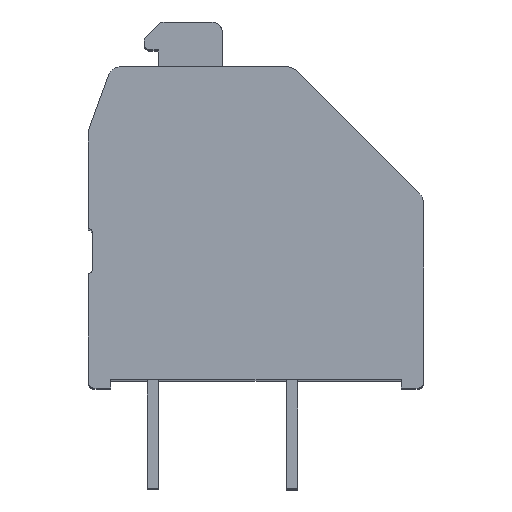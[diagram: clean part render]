
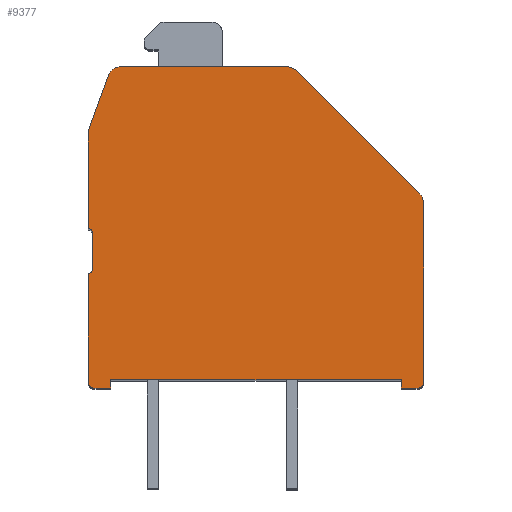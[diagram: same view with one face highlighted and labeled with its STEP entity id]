
A CAD part, top view. The second image highlights one B-rep face of the part: STEP entity #9377.
In plain terms, the highlighted planar face has unit normal (0, 0, 1).
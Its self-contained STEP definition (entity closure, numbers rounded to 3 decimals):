
#53=CIRCLE('',#9687,0.5);
#122=CIRCLE('',#9928,0.15);
#124=CIRCLE('',#9932,0.15);
#126=CIRCLE('',#9937,0.5);
#128=CIRCLE('',#9940,0.5);
#175=CIRCLE('',#10100,0.2);
#176=CIRCLE('',#10106,0.2);
#388=PLANE('',#10107);
#629=LINE('',#13120,#1750);
#955=LINE('',#13960,#2076);
#1124=LINE('',#14374,#2245);
#1129=LINE('',#14385,#2250);
#1134=LINE('',#14399,#2255);
#1141=LINE('',#14416,#2262);
#1206=LINE('',#14526,#2327);
#1211=LINE('',#14542,#2332);
#1350=LINE('',#14935,#2471);
#1351=LINE('',#14937,#2472);
#1353=LINE('',#14941,#2474);
#1355=LINE('',#14945,#2476);
#1750=VECTOR('',#10446,1000.);
#2076=VECTOR('',#11174,1000.);
#2245=VECTOR('',#11517,1000.);
#2250=VECTOR('',#11524,1000.);
#2255=VECTOR('',#11537,1000.);
#2262=VECTOR('',#11552,1000.);
#2327=VECTOR('',#11619,1000.);
#2332=VECTOR('',#11638,1000.);
#2471=VECTOR('',#12097,1000.);
#2472=VECTOR('',#12100,1000.);
#2474=VECTOR('',#12104,1000.);
#2476=VECTOR('',#12108,1000.);
#4431=ORIENTED_EDGE('',*,*,#6281,.T.);
#4432=ORIENTED_EDGE('',*,*,#6285,.F.);
#4433=ORIENTED_EDGE('',*,*,#6288,.T.);
#4434=ORIENTED_EDGE('',*,*,#6291,.F.);
#4435=ORIENTED_EDGE('',*,*,#6297,.T.);
#4436=ORIENTED_EDGE('',*,*,#6555,.T.);
#4437=ORIENTED_EDGE('',*,*,#6557,.T.);
#4438=ORIENTED_EDGE('',*,*,#6558,.T.);
#4439=ORIENTED_EDGE('',*,*,#6276,.T.);
#4440=ORIENTED_EDGE('',*,*,#6560,.T.);
#4441=ORIENTED_EDGE('',*,*,#6562,.T.);
#4442=ORIENTED_EDGE('',*,*,#6563,.T.);
#4443=ORIENTED_EDGE('',*,*,#6362,.T.);
#4444=ORIENTED_EDGE('',*,*,#6366,.T.);
#4445=ORIENTED_EDGE('',*,*,#5638,.T.);
#4446=ORIENTED_EDGE('',*,*,#5695,.T.);
#4447=ORIENTED_EDGE('',*,*,#6065,.T.);
#4448=ORIENTED_EDGE('',*,*,#6369,.T.);
#4449=ORIENTED_EDGE('',*,*,#6371,.T.);
#5638=EDGE_CURVE('',#7016,#7015,#629,.T.);
#5695=EDGE_CURVE('',#7015,#7061,#53,.T.);
#6065=EDGE_CURVE('',#7061,#7328,#955,.T.);
#6276=EDGE_CURVE('',#7487,#7486,#1124,.T.);
#6281=EDGE_CURVE('',#7492,#7491,#1129,.T.);
#6285=EDGE_CURVE('',#7494,#7491,#122,.T.);
#6288=EDGE_CURVE('',#7494,#7496,#1134,.T.);
#6291=EDGE_CURVE('',#7498,#7496,#124,.T.);
#6297=EDGE_CURVE('',#7498,#7502,#1141,.T.);
#6362=EDGE_CURVE('',#7547,#7546,#1206,.T.);
#6366=EDGE_CURVE('',#7546,#7016,#126,.T.);
#6369=EDGE_CURVE('',#7328,#7550,#128,.T.);
#6371=EDGE_CURVE('',#7550,#7492,#1211,.T.);
#6555=EDGE_CURVE('',#7502,#7643,#175,.T.);
#6557=EDGE_CURVE('',#7643,#7644,#1350,.T.);
#6558=EDGE_CURVE('',#7644,#7487,#1351,.T.);
#6560=EDGE_CURVE('',#7486,#7645,#1353,.T.);
#6562=EDGE_CURVE('',#7645,#7646,#1355,.T.);
#6563=EDGE_CURVE('',#7646,#7547,#176,.T.);
#7015=VERTEX_POINT('',#13119);
#7016=VERTEX_POINT('',#13121);
#7061=VERTEX_POINT('',#13232);
#7328=VERTEX_POINT('',#13959);
#7486=VERTEX_POINT('',#14373);
#7487=VERTEX_POINT('',#14375);
#7491=VERTEX_POINT('',#14384);
#7492=VERTEX_POINT('',#14386);
#7494=VERTEX_POINT('',#14392);
#7496=VERTEX_POINT('',#14398);
#7498=VERTEX_POINT('',#14404);
#7502=VERTEX_POINT('',#14415);
#7546=VERTEX_POINT('',#14525);
#7547=VERTEX_POINT('',#14527);
#7550=VERTEX_POINT('',#14538);
#7643=VERTEX_POINT('',#14930);
#7644=VERTEX_POINT('',#14934);
#7645=VERTEX_POINT('',#14940);
#7646=VERTEX_POINT('',#14944);
#8250=EDGE_LOOP('',(#4431,#4432,#4433,#4434,#4435,#4436,#4437,#4438,#4439,
#4440,#4441,#4442,#4443,#4444,#4445,#4446,#4447,#4448,#4449));
#8777=FACE_BOUND('',#8250,.T.);
#9377=ADVANCED_FACE('',(#8777),#388,.T.);
#9687=AXIS2_PLACEMENT_3D('',#13233,#10563,#10564);
#9928=AXIS2_PLACEMENT_3D('',#14393,#11531,#11532);
#9932=AXIS2_PLACEMENT_3D('',#14405,#11543,#11544);
#9937=AXIS2_PLACEMENT_3D('',#14533,#11626,#11627);
#9940=AXIS2_PLACEMENT_3D('',#14539,#11633,#11634);
#10100=AXIS2_PLACEMENT_3D('',#14931,#12092,#12093);
#10106=AXIS2_PLACEMENT_3D('',#14947,#12111,#12112);
#10107=AXIS2_PLACEMENT_3D('',#14948,#12113,#12114);
#10446=DIRECTION('',(-0.707,0.707,0.));
#10563=DIRECTION('',(0.,0.,1.));
#10564=DIRECTION('',(1.,0.,0.));
#11174=DIRECTION('',(-1.,0.,0.));
#11517=DIRECTION('',(1.,0.,0.));
#11524=DIRECTION('',(0.,-1.,0.));
#11531=DIRECTION('',(0.,0.,1.));
#11532=DIRECTION('',(1.,0.,0.));
#11537=DIRECTION('',(0.,-1.,0.));
#11543=DIRECTION('',(0.,0.,1.));
#11544=DIRECTION('',(1.,0.,0.));
#11552=DIRECTION('',(0.,-1.,0.));
#11619=DIRECTION('',(0.,1.,0.));
#11626=DIRECTION('',(0.,0.,1.));
#11627=DIRECTION('',(1.,0.,0.));
#11633=DIRECTION('',(0.,0.,1.));
#11634=DIRECTION('',(1.,0.,0.));
#11638=DIRECTION('',(-0.342,-0.94,0.));
#12092=DIRECTION('',(0.,0.,1.));
#12093=DIRECTION('',(1.,0.,0.));
#12097=DIRECTION('',(1.,0.,0.));
#12100=DIRECTION('',(0.,1.,0.));
#12104=DIRECTION('',(0.,-1.,0.));
#12108=DIRECTION('',(1.,0.,0.));
#12111=DIRECTION('',(0.,0.,1.));
#12112=DIRECTION('',(1.,0.,0.));
#12113=DIRECTION('',(0.,0.,1.));
#12114=DIRECTION('',(1.,0.,0.));
#13119=CARTESIAN_POINT('',(0.146,11.354,29.44));
#13120=CARTESIAN_POINT('',(4.554,6.946,29.44));
#13121=CARTESIAN_POINT('',(4.554,6.946,29.44));
#13232=CARTESIAN_POINT('',(-0.207,11.5,29.44));
#13233=CARTESIAN_POINT('',(-0.207,11.,29.44));
#13959=CARTESIAN_POINT('',(-6.113,11.5,29.44));
#13960=CARTESIAN_POINT('',(-0.207,11.5,29.44));
#14373=CARTESIAN_POINT('',(3.9,0.3,29.44));
#14374=CARTESIAN_POINT('',(-6.5,0.3,29.44));
#14375=CARTESIAN_POINT('',(-6.5,0.3,29.44));
#14384=CARTESIAN_POINT('',(-7.3,5.7,29.44));
#14385=CARTESIAN_POINT('',(-7.3,9.2,29.44));
#14386=CARTESIAN_POINT('',(-7.3,9.2,29.44));
#14392=CARTESIAN_POINT('',(-7.15,5.55,29.44));
#14393=CARTESIAN_POINT('',(-7.3,5.55,29.44));
#14398=CARTESIAN_POINT('',(-7.15,4.25,29.44));
#14399=CARTESIAN_POINT('',(-7.15,5.55,29.44));
#14404=CARTESIAN_POINT('',(-7.3,4.1,29.44));
#14405=CARTESIAN_POINT('',(-7.3,4.25,29.44));
#14415=CARTESIAN_POINT('',(-7.3,0.2,29.44));
#14416=CARTESIAN_POINT('',(-7.3,4.1,29.44));
#14525=CARTESIAN_POINT('',(4.7,6.593,29.44));
#14526=CARTESIAN_POINT('',(4.7,0.2,29.44));
#14527=CARTESIAN_POINT('',(4.7,0.2,29.44));
#14533=CARTESIAN_POINT('',(4.2,6.593,29.44));
#14538=CARTESIAN_POINT('',(-6.583,11.171,29.44));
#14539=CARTESIAN_POINT('',(-6.113,11.,29.44));
#14542=CARTESIAN_POINT('',(-6.583,11.171,29.44));
#14930=CARTESIAN_POINT('',(-7.1,0.,29.44));
#14931=CARTESIAN_POINT('',(-7.1,0.2,29.44));
#14934=CARTESIAN_POINT('',(-6.5,0.,29.44));
#14935=CARTESIAN_POINT('',(-7.1,0.,29.44));
#14937=CARTESIAN_POINT('',(-6.5,0.,29.44));
#14940=CARTESIAN_POINT('',(3.9,0.,29.44));
#14941=CARTESIAN_POINT('',(3.9,0.3,29.44));
#14944=CARTESIAN_POINT('',(4.5,0.,29.44));
#14945=CARTESIAN_POINT('',(3.9,0.,29.44));
#14947=CARTESIAN_POINT('',(4.5,0.2,29.44));
#14948=CARTESIAN_POINT('',(-7.3,5.55,29.44));
